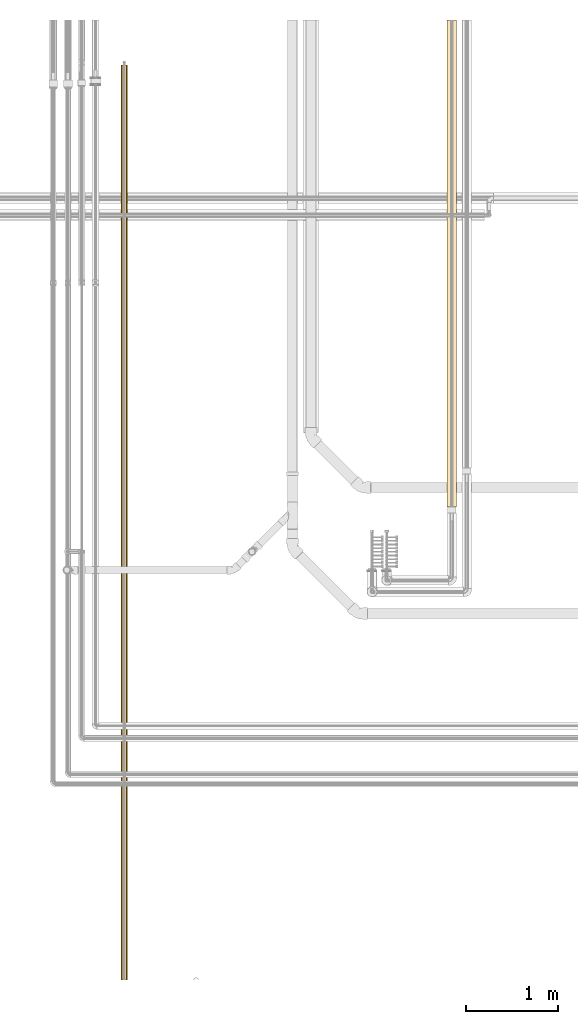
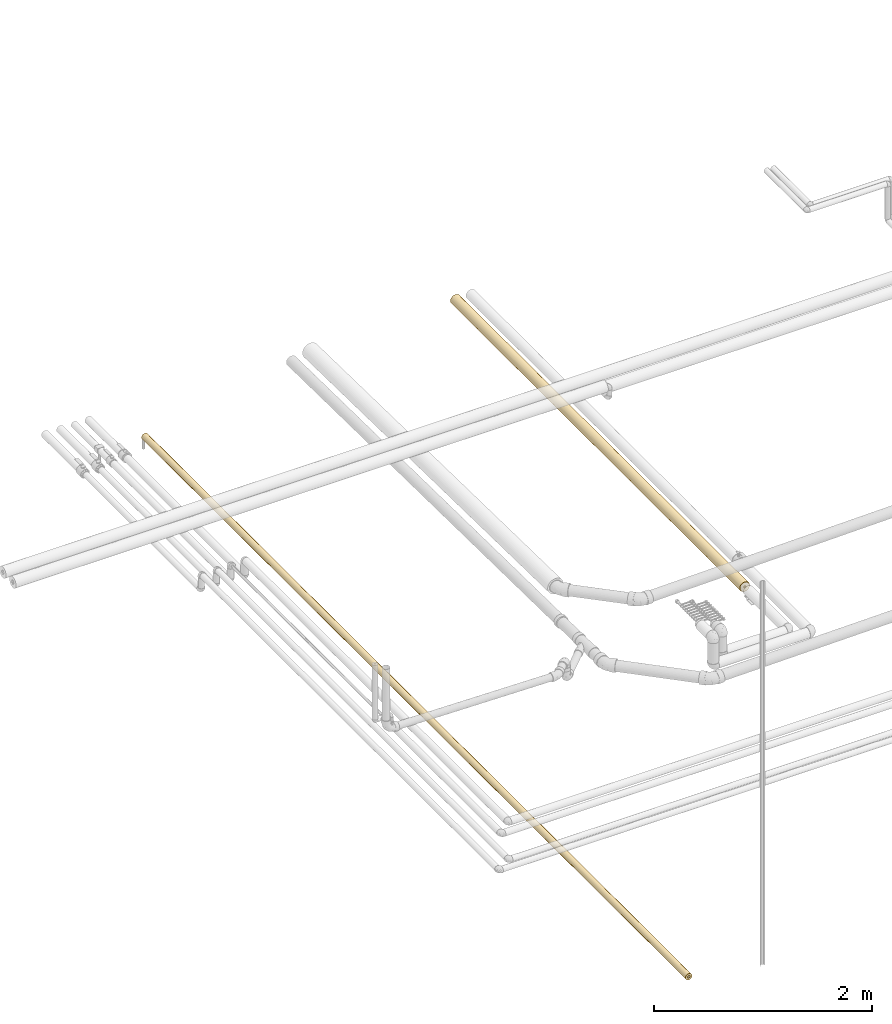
# One storey, part 13 of 83: 2 coverings.
"""IFC2X3 building model written with IfcOpenShell, lengths in millimetres."""

from ifc_helpers import new_model, entity, si_unit, converted_unit, derived_unit, direction, frame, place, context, subcontext, project, spatial, faceted_brep, element, save


model = new_model("IFC2X3")

# Units and contexts
model_context = context("Model", 3, precision=0.01, world=frame((0.0, 4.29681676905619e-09, 0.0)), true_north=direction((4.01073788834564e-13, 1.0)))
plan_context = context("Plan", 3, precision=0.01, world=frame((0.0, 4.29681676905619e-09, 0.0)), true_north=direction((4.01073788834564e-13, 1.0)))
body_context = subcontext(model_context, "Body", "Model", "MODEL_VIEW")
ifc_project = project(units=[converted_unit("PLANEANGLEUNIT", "DEGREE", entity("IfcPositiveLengthMeasure", 0.0174532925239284), si_unit("PLANEANGLEUNIT", "RADIAN"), dimensions=[0, 0, 0, 0, 0, 0, 0]), si_unit("AREAUNIT", "SQUARE_METRE"), si_unit("LENGTHUNIT", "METRE", prefix="MILLI"), si_unit("MASSUNIT", "GRAM", prefix="KILO"), si_unit("POWERUNIT", "WATT"), si_unit("PRESSUREUNIT", "PASCAL"), si_unit("FORCEUNIT", "NEWTON", prefix="KILO"), si_unit("ELECTRICVOLTAGEUNIT", "VOLT"), si_unit("ELECTRICCURRENTUNIT", "AMPERE"), si_unit("THERMODYNAMICTEMPERATUREUNIT", "DEGREE_CELSIUS"), si_unit("TIMEUNIT", "SECOND"), si_unit("VOLUMEUNIT", "CUBIC_METRE"), derived_unit("LINEARVELOCITYUNIT", [(si_unit("LENGTHUNIT", "METRE"), 1), (si_unit("TIMEUNIT", "SECOND"), -1)]), derived_unit("VOLUMETRICFLOWRATEUNIT", [(si_unit("VOLUMEUNIT", "CUBIC_METRE"), 1), (si_unit("TIMEUNIT", "SECOND"), -1)]), derived_unit("THERMALTRANSMITTANCEUNIT", [(si_unit("POWERUNIT", "WATT"), 1), (si_unit("THERMODYNAMICTEMPERATUREUNIT", "KELVIN"), -1), (si_unit("AREAUNIT", "SQUARE_METRE"), -1)]), derived_unit("SOUNDPRESSUREUNIT", [(si_unit("PRESSUREUNIT", "PASCAL"), 1)])], contexts=[model_context, plan_context])

# Site, building, storey
site_placement = place(None, frame((0.0, -4.29681676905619e-09, 0.0), z_axis=(0.0, 0.0, 1.0), x_axis=(1.0, 0.0, 0.0)))
site = spatial("IfcSite", under=ifc_project, at=site_placement, Name="ENGM", CompositionType="ELEMENT")
building_placement = place(site_placement, frame((0.0, 4.29681676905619e-09, 0.0), z_axis=(0.0, 0.0, 1.0), x_axis=(1.0, 0.0, 0.0)))
building = spatial("IfcBuilding", under=site, at=building_placement, Name="TI", CompositionType="ELEMENT")
storey_placement = place(building_placement, frame((0.0, 0.0, 204000.0), z_axis=(0.0, 0.0, 1.0), x_axis=(1.0, 0.0, 0.0)))
storey = spatial("IfcBuildingStorey", under=building, at=storey_placement, Name="Nivå D", CompositionType="ELEMENT", Elevation=204000.0)

# Coverings
covering_1_placement = place(storey_placement, frame((603920.1909, 694163.73028, 6040.50777999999), z_axis=(0.0, 0.0, 1.0), x_axis=(0.0, 1.0, 0.0)))
element("IfcCovering", 1, at=covering_1_placement, inside=storey, Name="BI11T - Rørskål m/Al.folie - varme 60-25", PredefinedType="INSULATION", context=body_context, shape_type="Brep", body=[
    faceted_brep([(5311.76971999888, 12.5, 0.0), (5311.76971999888, 12.3100969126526, -2.17060222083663), (0.0, 12.3100969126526, -2.17060222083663), (0.0, 12.5, 0.0), (5311.76971999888, 11.7461577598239, -4.27525179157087), (0.0, 11.7461577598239, -4.27525179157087), (5311.76971999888, 10.8253175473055, -6.25000000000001), (0.0, 10.8253175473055, -6.25000000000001), (5311.76971999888, 9.57555553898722, -8.03484512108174), (0.0, 9.57555553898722, -8.03484512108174), (5311.76971999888, 8.03484512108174, -9.57555553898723), (0.0, 8.03484512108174, -9.57555553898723), (5311.76971999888, 6.25, -10.8253175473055), (0.0, 6.25, -10.8253175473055), (5311.76971999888, 4.27525179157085, -11.7461577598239), (0.0, 4.27525179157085, -11.7461577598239), (5311.76971999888, 2.17060222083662, -12.3100969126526), (0.0, 2.17060222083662, -12.3100969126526), (5311.76971999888, -2.29621274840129e-15, -12.5), (0.0, -2.29621274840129e-15, -12.5), (5311.76971999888, -2.17060222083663, -12.3100969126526), (0.0, -2.17060222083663, -12.3100969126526), (5311.76971999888, -4.27525179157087, -11.7461577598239), (0.0, -4.27525179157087, -11.7461577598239), (5311.76971999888, -6.25000000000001, -10.8253175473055), (0.0, -6.25000000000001, -10.8253175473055), (5311.76971999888, -8.03484512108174, -9.57555553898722), (0.0, -8.03484512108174, -9.57555553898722), (5311.76971999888, -9.57555553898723, -8.03484512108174), (0.0, -9.57555553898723, -8.03484512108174), (5311.76971999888, -10.8253175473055, -6.25), (0.0, -10.8253175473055, -6.25), (5311.76971999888, -11.7461577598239, -4.27525179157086), (0.0, -11.7461577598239, -4.27525179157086), (5311.76971999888, -12.3100969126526, -2.17060222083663), (0.0, -12.3100969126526, -2.17060222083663), (5311.76971999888, -12.5, 1.53080849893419e-15), (0.0, -12.5, 1.53080849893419e-15), (5311.76971999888, -12.3100969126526, 2.17060222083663), (0.0, -12.3100969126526, 2.17060222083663), (5311.76971999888, -11.7461577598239, 4.27525179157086), (0.0, -11.7461577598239, 4.27525179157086), (5311.76971999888, -10.8253175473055, 6.25), (0.0, -10.8253175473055, 6.25), (5311.76971999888, -9.57555553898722, 8.03484512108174), (0.0, -9.57555553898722, 8.03484512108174), (5311.76971999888, -8.03484512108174, 9.57555553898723), (0.0, -8.03484512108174, 9.57555553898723), (5311.76971999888, -6.25, 10.8253175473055), (0.0, -6.25, 10.8253175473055), (5311.76971999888, -4.27525179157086, 11.7461577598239), (0.0, -4.27525179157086, 11.7461577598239), (5311.76971999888, -2.17060222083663, 12.3100969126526), (0.0, -2.17060222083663, 12.3100969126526), (5311.76971999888, 7.65404249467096e-16, 12.5), (0.0, 7.65404249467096e-16, 12.5), (5311.76971999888, 2.17060222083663, 12.3100969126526), (0.0, 2.17060222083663, 12.3100969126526), (5311.76971999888, 4.27525179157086, 11.7461577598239), (0.0, 4.27525179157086, 11.7461577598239), (5311.76971999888, 6.25, 10.8253175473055), (0.0, 6.25, 10.8253175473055), (5311.76971999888, 8.03484512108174, 9.57555553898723), (0.0, 8.03484512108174, 9.57555553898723), (5311.76971999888, 9.57555553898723, 8.03484512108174), (0.0, 9.57555553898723, 8.03484512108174), (5311.76971999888, 10.8253175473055, 6.25), (0.0, 10.8253175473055, 6.25), (5311.76971999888, 11.7461577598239, 4.27525179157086), (0.0, 11.7461577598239, 4.27525179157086), (5311.76971999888, 12.3100969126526, 2.17060222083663), (0.0, 12.3100969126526, 2.17060222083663), (5311.76971999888, 51.7024070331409, -9.11652932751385), (5311.76971999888, 52.5, 0.0), (0.0, 52.5, 0.0), (0.0, 51.7024070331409, -9.11652932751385), (5311.76971999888, 51.7024070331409, 9.11652932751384), (0.0, 51.7024070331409, 9.11652932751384), (5311.76971999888, 49.3338625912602, 17.9560575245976), (0.0, 49.3338625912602, 17.9560575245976), (5311.76971999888, 45.466333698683, 26.25), (0.0, 45.466333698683, 26.25), (5311.76971999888, 40.2173332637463, 33.7463495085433), (0.0, 40.2173332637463, 33.7463495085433), (5311.76971999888, 33.7463495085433, 40.2173332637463), (0.0, 33.7463495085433, 40.2173332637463), (5311.76971999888, 26.25, 45.466333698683), (0.0, 26.25, 45.466333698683), (5311.76971999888, 17.9560575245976, 49.3338625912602), (0.0, 17.9560575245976, 49.3338625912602), (5311.76971999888, 9.11652932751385, 51.7024070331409), (0.0, 9.11652932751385, 51.7024070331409), (5311.76971999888, 3.2146978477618e-15, 52.5), (0.0, 3.2146978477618e-15, 52.5), (5311.76971999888, -9.11652932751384, 51.7024070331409), (0.0, -9.11652932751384, 51.7024070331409), (5311.76971999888, -17.9560575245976, 49.3338625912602), (0.0, -17.9560575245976, 49.3338625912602), (5311.76971999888, -26.25, 45.466333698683), (0.0, -26.25, 45.466333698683), (5311.76971999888, -33.7463495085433, 40.2173332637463), (0.0, -33.7463495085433, 40.2173332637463), (5311.76971999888, -40.2173332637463, 33.7463495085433), (0.0, -40.2173332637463, 33.7463495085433), (5311.76971999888, -45.466333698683, 26.25), (0.0, -45.466333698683, 26.25), (5311.76971999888, -49.3338625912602, 17.9560575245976), (0.0, -49.3338625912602, 17.9560575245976), (5311.76971999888, -51.7024070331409, 9.11652932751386), (0.0, -51.7024070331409, 9.11652932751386), (5311.76971999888, -52.5, 6.4293956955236e-15), (0.0, -52.5, 6.4293956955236e-15), (5311.76971999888, -51.7024070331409, -9.11652932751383), (0.0, -51.7024070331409, -9.11652932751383), (5311.76971999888, -49.3338625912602, -17.9560575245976), (0.0, -49.3338625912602, -17.9560575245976), (5311.76971999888, -45.466333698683, -26.25), (0.0, -45.466333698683, -26.25), (5311.76971999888, -40.2173332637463, -33.7463495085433), (0.0, -40.2173332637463, -33.7463495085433), (5311.76971999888, -33.7463495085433, -40.2173332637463), (0.0, -33.7463495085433, -40.2173332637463), (5311.76971999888, -26.25, -45.466333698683), (0.0, -26.25, -45.466333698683), (5311.76971999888, -17.9560575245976, -49.3338625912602), (0.0, -17.9560575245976, -49.3338625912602), (5311.76971999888, -9.11652932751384, -51.7024070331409), (0.0, -9.11652932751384, -51.7024070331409), (5311.76971999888, -9.64409354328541e-15, -52.5), (0.0, -9.64409354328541e-15, -52.5), (5311.76971999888, 9.11652932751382, -51.7024070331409), (0.0, 9.11652932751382, -51.7024070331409), (5311.76971999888, 17.9560575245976, -49.3338625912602), (0.0, 17.9560575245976, -49.3338625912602), (5311.76971999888, 26.25, -45.466333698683), (0.0, 26.25, -45.466333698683), (5311.76971999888, 33.7463495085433, -40.2173332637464), (0.0, 33.7463495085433, -40.2173332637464), (5311.76971999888, 40.2173332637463, -33.7463495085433), (0.0, 40.2173332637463, -33.7463495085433), (5311.76971999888, 45.466333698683, -26.25), (0.0, 45.466333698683, -26.25), (5311.76971999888, 49.3338625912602, -17.9560575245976), (0.0, 49.3338625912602, -17.9560575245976)], [[[0, 1, 2, 3]], [[1, 4, 5, 2]], [[4, 6, 7, 5]], [[6, 8, 9, 7]], [[8, 10, 11, 9]], [[10, 12, 13, 11]], [[12, 14, 15, 13]], [[14, 16, 17, 15]], [[16, 18, 19, 17]], [[18, 20, 21, 19]], [[20, 22, 23, 21]], [[22, 24, 25, 23]], [[24, 26, 27, 25]], [[26, 28, 29, 27]], [[28, 30, 31, 29]], [[30, 32, 33, 31]], [[32, 34, 35, 33]], [[34, 36, 37, 35]], [[36, 38, 39, 37]], [[38, 40, 41, 39]], [[40, 42, 43, 41]], [[42, 44, 45, 43]], [[44, 46, 47, 45]], [[46, 48, 49, 47]], [[48, 50, 51, 49]], [[50, 52, 53, 51]], [[52, 54, 55, 53]], [[54, 56, 57, 55]], [[56, 58, 59, 57]], [[58, 60, 61, 59]], [[60, 62, 63, 61]], [[62, 64, 65, 63]], [[64, 66, 67, 65]], [[66, 68, 69, 67]], [[68, 70, 71, 69]], [[70, 0, 3, 71]], [[72, 73, 74, 75]], [[73, 76, 77, 74]], [[76, 78, 79, 77]], [[78, 80, 81, 79]], [[80, 82, 83, 81]], [[82, 84, 85, 83]], [[84, 86, 87, 85]], [[86, 88, 89, 87]], [[88, 90, 91, 89]], [[90, 92, 93, 91]], [[92, 94, 95, 93]], [[94, 96, 97, 95]], [[96, 98, 99, 97]], [[98, 100, 101, 99]], [[100, 102, 103, 101]], [[102, 104, 105, 103]], [[104, 106, 107, 105]], [[106, 108, 109, 107]], [[108, 110, 111, 109]], [[110, 112, 113, 111]], [[112, 114, 115, 113]], [[114, 116, 117, 115]], [[116, 118, 119, 117]], [[118, 120, 121, 119]], [[120, 122, 123, 121]], [[122, 124, 125, 123]], [[124, 126, 127, 125]], [[126, 128, 129, 127]], [[128, 130, 131, 129]], [[130, 132, 133, 131]], [[132, 134, 135, 133]], [[134, 136, 137, 135]], [[136, 138, 139, 137]], [[138, 140, 141, 139]], [[140, 142, 143, 141]], [[142, 72, 75, 143]], [[75, 74, 77, 79, 81, 83, 85, 87, 89, 91, 93, 95, 97, 99, 101, 103, 105, 107, 109, 111, 113, 115, 117, 119, 121, 123, 125, 127, 129, 131, 133, 135, 137, 139, 141, 143], [3, 2, 5, 7, 9, 11, 13, 15, 17, 19, 21, 23, 25, 27, 29, 31, 33, 35, 37, 39, 41, 43, 45, 47, 49, 51, 53, 55, 57, 59, 61, 63, 65, 67, 69, 71]], [[142, 140, 138, 136, 134, 132, 130, 128, 126, 124, 122, 120, 118, 116, 114, 112, 110, 108, 106, 104, 102, 100, 98, 96, 94, 92, 90, 88, 86, 84, 82, 80, 78, 76, 73, 72], [70, 68, 66, 64, 62, 60, 58, 56, 54, 52, 50, 48, 46, 44, 42, 40, 38, 36, 34, 32, 30, 28, 26, 24, 22, 20, 18, 16, 14, 12, 10, 8, 6, 4, 1, 0]]], orient=[[False], [False], [False], [False], [False], [False], [False], [False], [False], [False], [False], [False], [False], [False], [False], [False], [False], [False], [False], [False], [False], [False], [False], [False], [False], [False], [False], [False], [False], [False], [False], [False], [False], [False], [False], [False], [False], [False], [False], [False], [False], [False], [False], [False], [False], [False], [False], [False], [False], [False], [False], [False], [False], [False], [False], [False], [False], [False], [False], [False], [False], [False], [False], [False], [False], [False], [False], [False], [False], [False], [False], [False], [False, False], [False, False]]),
])
covering_2_placement = place(storey_placement, frame((600346.50429, 688644.14881, 6052.50364000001), z_axis=(0.0, 2.89999999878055e-05, 0.9999999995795), x_axis=(0.0, 0.9999999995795, -2.89999999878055e-05)))
element("IfcCovering", 2, at=covering_2_placement, inside=storey, Name="BI15T - Cellegummi KV 15mm", PredefinedType="INSULATION", context=body_context, shape_type="Brep", body=[
    faceted_brep([(355.730912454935, 13.7873085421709, -2.43107448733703), (355.730912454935, 14.0, 0.0), (10341.4, 14.0, 0.0), (10341.4, 13.7873085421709, -2.43107448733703), (355.730912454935, 13.1556966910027, -4.78828200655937), (10341.4, 13.1556966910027, -4.78828200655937), (355.730912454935, 12.1243556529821, -7.00000000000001), (10341.4, 12.1243556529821, -7.00000000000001), (355.754711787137, 10.7246222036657, -8.99902653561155), (10341.4, 10.7246222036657, -8.99902653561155), (355.783713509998, 8.99902653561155, -10.7246222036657), (10341.4, 8.99902653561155, -10.7246222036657), (355.804035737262, 7.0, -12.1243556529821), (10341.4, 7.0, -12.1243556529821), (355.819904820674, 4.78828200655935, -13.1556966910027), (10341.4, 4.78828200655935, -13.1556966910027), (355.833375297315, 2.43107448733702, -13.7873085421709), (10341.4, 2.43107448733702, -13.7873085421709), (355.845642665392, -2.57175827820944e-15, -14.0), (10341.4, -2.57175827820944e-15, -14.0), (355.851589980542, -2.43107448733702, -13.7873085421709), (10341.4, -2.43107448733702, -13.7873085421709), (355.8515716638, -4.78828200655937, -13.1556966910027), (10341.4, -4.78828200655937, -13.1556966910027), (355.730912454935, -7.00000000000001, -12.1243556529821), (10341.4, -7.00000000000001, -12.1243556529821), (355.730912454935, -8.99902653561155, -10.7246222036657), (10341.4, -8.99902653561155, -10.7246222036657), (355.730912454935, -10.7246222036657, -8.99902653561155), (10341.4, -10.7246222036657, -8.99902653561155), (355.730912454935, -12.1243556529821, -7.0), (10341.4, -12.1243556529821, -7.0), (355.730912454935, -13.1556966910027, -4.78828200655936), (10341.4, -13.1556966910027, -4.78828200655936), (355.730912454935, -13.7873085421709, -2.43107448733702), (10341.4, -13.7873085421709, -2.43107448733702), (355.730912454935, -14.0, 1.71450551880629e-15), (10341.4, -14.0, 1.71450551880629e-15), (355.730912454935, -13.7873085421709, 2.43107448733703), (10341.4, -13.7873085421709, 2.43107448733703), (355.730912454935, -13.1556966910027, 4.78828200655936), (10341.4, -13.1556966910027, 4.78828200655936), (355.730912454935, -12.1243556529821, 7.0), (10341.4, -12.1243556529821, 7.0), (355.753301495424, -10.7246222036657, 8.99902653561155), (10341.4, -10.7246222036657, 8.99902653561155), (355.782569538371, -8.99902653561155, 10.7246222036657), (10341.4, -8.99902653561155, 10.7246222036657), (355.803048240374, -7.0, 12.1243556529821), (10341.4, -7.0, 12.1243556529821), (355.819012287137, -4.78828200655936, 13.1556966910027), (10341.4, -4.78828200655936, 13.1556966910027), (355.832537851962, -2.43107448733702, 13.7873085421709), (10341.4, -2.43107448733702, 13.7873085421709), (355.844830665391, 8.57252759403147e-16, 14.0), (10341.4, 8.57252759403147e-16, 14.0), (355.850790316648, 2.43107448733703, 13.7873085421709), (10341.4, 2.43107448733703, 13.7873085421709), (355.850808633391, 4.78828200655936, 13.1556966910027), (10341.4, 4.78828200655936, 13.1556966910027), (355.730912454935, 7.0, 12.1243556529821), (10341.4, 7.0, 12.1243556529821), (355.730912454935, 8.99902653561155, 10.7246222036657), (10341.4, 8.99902653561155, 10.7246222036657), (355.730912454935, 10.7246222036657, 8.99902653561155), (10341.4, 10.7246222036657, 8.99902653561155), (355.730912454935, 12.1243556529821, 7.0), (10341.4, 12.1243556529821, 7.0), (355.730912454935, 13.1556966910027, 4.78828200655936), (10341.4, 13.1556966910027, 4.78828200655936), (355.730912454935, 13.7873085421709, 2.43107448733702), (10341.4, 13.7873085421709, 2.43107448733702), (355.730912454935, 35.0, 0.0), (355.730912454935, 34.4682713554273, -6.07768621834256), (10341.4, 34.4682713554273, -6.07768621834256), (10341.4, 35.0, 0.0), (355.730912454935, 34.4682713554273, 6.07768621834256), (10341.4, 34.4682713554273, 6.07768621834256), (355.730912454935, 32.8892417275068, 11.9707050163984), (10341.4, 32.8892417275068, 11.9707050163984), (355.730912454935, 30.3108891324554, 17.5), (10341.4, 30.3108891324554, 17.5), (355.730912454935, 26.8115555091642, 22.4975663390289), (10341.4, 26.8115555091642, 22.4975663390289), (355.730912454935, 22.4975663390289, 26.8115555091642), (10341.4, 22.4975663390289, 26.8115555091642), (355.730912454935, 17.5, 30.3108891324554), (10341.4, 17.5, 30.3108891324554), (355.730912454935, 11.9707050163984, 32.8892417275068), (10341.4, 11.9707050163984, 32.8892417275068), (355.850190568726, 6.07768621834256, 34.4682713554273), (10341.4, 6.07768621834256, 34.4682713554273), (355.850175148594, 2.14313189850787e-15, 35.0), (10341.4, 2.14313189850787e-15, 35.0), (355.844221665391, -6.07768621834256, 34.4682713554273), (10341.4, -6.07768621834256, 34.4682713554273), (355.831909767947, -11.9707050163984, 32.8892417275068), (10341.4, -11.9707050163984, 32.8892417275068), (355.818342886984, -17.5, 30.3108891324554), (10341.4, -17.5, 30.3108891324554), (355.802307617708, -22.4975663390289, 26.8115555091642), (10341.4, -22.4975663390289, 26.8115555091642), (355.78171155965, -26.8115555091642, 22.4975663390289), (10341.4, -26.8115555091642, 22.4975663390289), (355.752243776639, -30.3108891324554, 17.5), (10341.4, -30.3108891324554, 17.5), (355.730912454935, -32.8892417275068, 11.9707050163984), (10341.4, -32.8892417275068, 11.9707050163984), (355.730912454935, -34.4682713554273, 6.07768621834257), (10341.4, -34.4682713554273, 6.07768621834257), (355.730912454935, -35.0, 4.28626379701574e-15), (10341.4, -35.0, 4.28626379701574e-15), (355.730912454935, -34.4682713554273, -6.07768621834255), (10341.4, -34.4682713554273, -6.07768621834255), (355.730912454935, -32.8892417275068, -11.9707050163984), (10341.4, -32.8892417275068, -11.9707050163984), (355.730912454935, -30.3108891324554, -17.5), (10341.4, -30.3108891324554, -17.5), (355.730912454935, -26.8115555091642, -22.4975663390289), (10341.4, -26.8115555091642, -22.4975663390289), (355.730912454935, -22.4975663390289, -26.8115555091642), (10341.4, -22.4975663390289, -26.8115555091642), (355.730912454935, -17.5, -30.3108891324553), (10341.4, -17.5, -30.3108891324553), (355.730912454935, -11.9707050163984, -32.8892417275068), (10341.4, -11.9707050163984, -32.8892417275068), (355.852189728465, -6.07768621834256, -34.4682713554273), (10341.4, -6.07768621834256, -34.4682713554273), (355.852205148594, -6.4293956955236e-15, -35.0), (10341.4, -6.4293956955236e-15, -35.0), (355.846251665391, 6.07768621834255, -34.4682713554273), (10341.4, 6.07768621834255, -34.4682713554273), (355.834003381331, 11.9707050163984, -32.8892417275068), (10341.4, 11.9707050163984, -32.8892417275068), (355.820574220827, 17.5, -30.3108891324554), (10341.4, 17.5, -30.3108891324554), (355.804776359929, 22.4975663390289, -26.8115555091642), (10341.4, 22.4975663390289, -26.8115555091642), (355.784571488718, 26.8115555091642, -22.4975663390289), (10341.4, 26.8115555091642, -22.4975663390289), (355.755769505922, 30.3108891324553, -17.5), (10341.4, 30.3108891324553, -17.5), (355.730912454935, 32.8892417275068, -11.9707050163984), (10341.4, 32.8892417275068, -11.9707050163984), (355.851013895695, 34.4682713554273, 6.07768621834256), (355.85084299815, 32.8892417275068, 11.9707050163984), (355.850682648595, 30.3108891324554, 17.5), (355.850537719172, 26.8115555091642, 22.4975663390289), (355.850412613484, 22.4975663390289, 26.8115555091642), (355.85031113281, 17.5, 30.3108891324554), (355.850236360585, 11.9707050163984, 32.8892417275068), (355.850190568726, -6.07768621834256, 34.4682713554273), (355.850236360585, -11.9707050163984, 32.8892417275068), (355.85031113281, -17.5, 30.3108891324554), (355.850412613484, -22.4975663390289, 26.8115555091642), (355.850537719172, -26.8115555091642, 22.4975663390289), (355.850682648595, -30.3108891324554, 17.5), (355.85084299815, -32.8892417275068, 11.9707050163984), (355.851013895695, -34.4682713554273, 6.07768621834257), (355.851190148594, -35.0, 4.28626379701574e-15), (355.851366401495, -34.4682713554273, -6.07768621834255), (355.851537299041, -32.8892417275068, -11.9707050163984), (355.851697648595, -30.3108891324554, -17.5), (355.851842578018, -26.8115555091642, -22.4975663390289), (355.851967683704, -22.4975663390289, -26.8115555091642), (355.852069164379, -17.5, -30.3108891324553), (355.852143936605, -11.9707050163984, -32.8892417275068), (355.852189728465, 6.07768621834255, -34.4682713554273), (355.852143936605, 11.9707050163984, -32.8892417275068), (355.852069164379, 17.5, -30.3108891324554), (355.851967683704, 22.4975663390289, -26.8115555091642), (355.851842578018, 26.8115555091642, -22.4975663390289), (355.851697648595, 30.3108891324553, -17.5), (355.851537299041, 32.8892417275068, -11.9707050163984), (355.851366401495, 34.4682713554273, -6.07768621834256), (355.851190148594, 35.0, 0.0), (355.851329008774, 13.1556966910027, -4.78828200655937), (355.851393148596, 12.1243556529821, -7.00000000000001), (355.851451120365, 10.7246222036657, -8.99902653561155), (355.851501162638, 8.99902653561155, -10.7246222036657), (355.85154175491, 7.0, -12.1243556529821), (355.8515716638, 4.78828200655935, -13.1556966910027), (355.851589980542, 2.43107448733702, -13.7873085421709), (355.851596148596, -2.57175827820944e-15, -14.0), (355.85154175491, -7.00000000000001, -12.1243556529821), (355.851501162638, -8.99902653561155, -10.7246222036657), (355.851451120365, -10.7246222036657, -8.99902653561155), (355.851393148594, -12.1243556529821, -7.0), (355.851329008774, -13.1556966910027, -4.78828200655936), (355.851260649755, -13.7873085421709, -2.43107448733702), (355.851190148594, -14.0, 1.71450551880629e-15), (355.851119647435, -13.7873085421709, 2.43107448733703), (355.851051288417, -13.1556966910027, 4.78828200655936), (355.850987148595, -12.1243556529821, 7.0), (355.850929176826, -10.7246222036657, 8.99902653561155), (355.850879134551, -8.99902653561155, 10.7246222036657), (355.850838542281, -7.0, 12.1243556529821), (355.850808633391, -4.78828200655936, 13.1556966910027), (355.850790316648, -2.43107448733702, 13.7873085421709), (355.850784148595, 8.57252759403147e-16, 14.0), (355.850838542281, 7.0, 12.1243556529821), (355.850879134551, 8.99902653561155, 10.7246222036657), (355.850929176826, 10.7246222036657, 8.99902653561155), (355.850987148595, 12.1243556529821, 7.0), (355.851051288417, 13.1556966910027, 4.78828200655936), (355.851119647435, 13.7873085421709, 2.43107448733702), (355.851190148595, 14.0, 0.0), (355.851260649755, 13.7873085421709, -2.43107448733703)], [[[0, 1, 2, 3]], [[4, 0, 3, 5]], [[6, 4, 5, 7]], [[8, 6, 7, 9]], [[10, 8, 9, 11]], [[12, 10, 11, 13]], [[14, 12, 13, 15]], [[16, 14, 15, 17]], [[18, 16, 17, 19]], [[20, 18, 19, 21]], [[22, 20, 21, 23]], [[24, 22, 23, 25]], [[26, 24, 25, 27]], [[28, 26, 27, 29]], [[30, 28, 29, 31]], [[32, 30, 31, 33]], [[34, 32, 33, 35]], [[36, 34, 35, 37]], [[38, 36, 37, 39]], [[40, 38, 39, 41]], [[42, 40, 41, 43]], [[44, 42, 43, 45]], [[46, 44, 45, 47]], [[48, 46, 47, 49]], [[50, 48, 49, 51]], [[52, 50, 51, 53]], [[54, 52, 53, 55]], [[56, 54, 55, 57]], [[58, 56, 57, 59]], [[60, 58, 59, 61]], [[62, 60, 61, 63]], [[64, 62, 63, 65]], [[66, 64, 65, 67]], [[68, 66, 67, 69]], [[70, 68, 69, 71]], [[1, 70, 71, 2]], [[72, 73, 74, 75]], [[76, 72, 75, 77]], [[78, 76, 77, 79]], [[80, 78, 79, 81]], [[82, 80, 81, 83]], [[84, 82, 83, 85]], [[86, 84, 85, 87]], [[88, 86, 87, 89]], [[90, 88, 89, 91]], [[92, 90, 91, 93]], [[94, 92, 93, 95]], [[96, 94, 95, 97]], [[98, 96, 97, 99]], [[100, 98, 99, 101]], [[102, 100, 101, 103]], [[104, 102, 103, 105]], [[106, 104, 105, 107]], [[108, 106, 107, 109]], [[110, 108, 109, 111]], [[112, 110, 111, 113]], [[114, 112, 113, 115]], [[116, 114, 115, 117]], [[118, 116, 117, 119]], [[120, 118, 119, 121]], [[122, 120, 121, 123]], [[124, 122, 123, 125]], [[126, 124, 125, 127]], [[128, 126, 127, 129]], [[130, 128, 129, 131]], [[132, 130, 131, 133]], [[134, 132, 133, 135]], [[136, 134, 135, 137]], [[138, 136, 137, 139]], [[140, 138, 139, 141]], [[142, 140, 141, 143]], [[73, 142, 143, 74]], [[75, 74, 143, 141, 139, 137, 135, 133, 131, 129, 127, 125, 123, 121, 119, 117, 115, 113, 111, 109, 107, 105, 103, 101, 99, 97, 95, 93, 91, 89, 87, 85, 83, 81, 79, 77], [2, 71, 69, 67, 65, 63, 61, 59, 57, 55, 53, 51, 49, 47, 45, 43, 41, 39, 37, 35, 33, 31, 29, 27, 25, 23, 21, 19, 17, 15, 13, 11, 9, 7, 5, 3]], [[144, 145, 146, 147, 148, 149, 150, 90, 92, 151, 152, 153, 154, 155, 156, 157, 158, 159, 160, 161, 162, 163, 164, 165, 166, 126, 128, 167, 168, 169, 170, 171, 172, 173, 174, 175], [176, 177, 178, 179, 180, 181, 182, 183, 20, 22, 184, 185, 186, 187, 188, 189, 190, 191, 192, 193, 194, 195, 196, 197, 198, 199, 56, 58, 200, 201, 202, 203, 204, 205, 206, 207]]], orient=[[False], [False], [False], [False], [False], [False], [False], [False], [False], [False], [False], [False], [False], [False], [False], [False], [False], [False], [False], [False], [False], [False], [False], [False], [False], [False], [False], [False], [False], [False], [False], [False], [False], [False], [False], [False], [False], [False], [False], [False], [False], [False], [False], [False], [False], [False], [False], [False], [False], [False], [False], [False], [False], [False], [False], [False], [False], [False], [False], [False], [False], [False], [False], [False], [False], [False], [False], [False], [False], [False], [False], [False], [False, False], [False, False]]),
])

save(model, "model.ifc")
